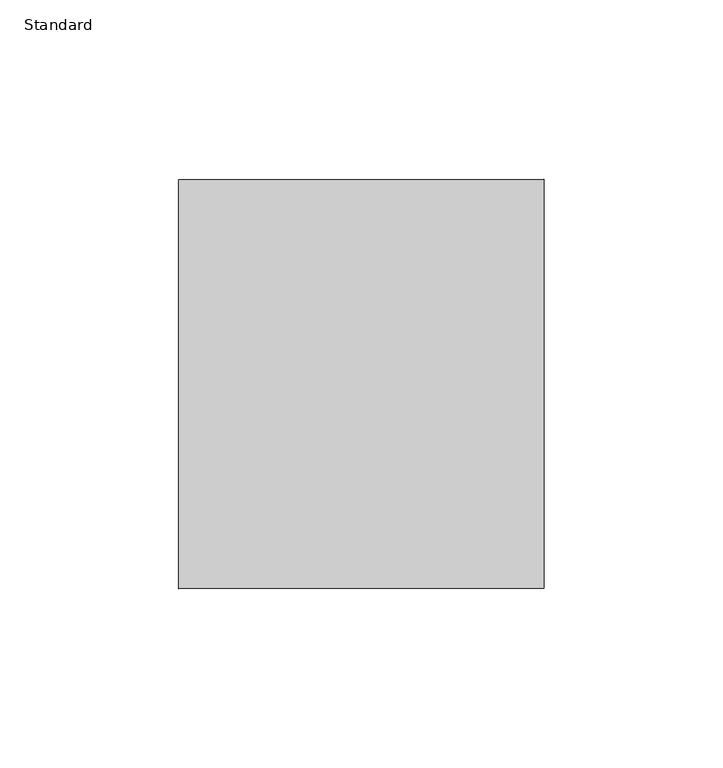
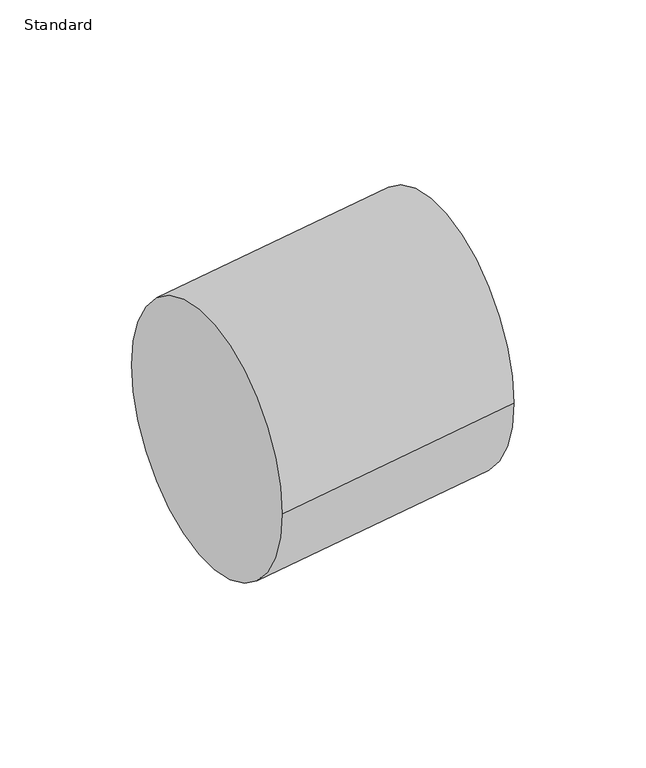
"""IFC4 building model written with IfcOpenShell, lengths in millimetres: pipe fitting geometry, Transformation - Générique : Standard."""

from ifc_helpers import new_model, si_unit, point, frame, origin, place, context, project, spatial, circle_curve, trimmed, source, transform, mapped, element, save
from ifc_brep_helpers import plane_surface, extruded_surface, advanced_brep


def standard_9be00b02(model_context):
    return source(origin(), model_context, "Body", "AdvancedBrep", [
        advanced_brep(
        [(102.0, -56.9217346, 15.5180442), (102.0, 57.3782654, 15.5180442), (0.0, -57.15, 0.0), (0.0, 57.15, 0.0)],
        [
            (0, 1, circle_curve(frame((102.0, 0.2282654, 15.5180442), z_axis=(1.0, 0.0, 0.0), x_axis=(0.0, 1.0, 0.0)), 57.15)),
            (1, 0, circle_curve(frame((102.0, 0.2282654, 15.5180442), z_axis=(1.0, 0.0, 0.0), x_axis=(0.0, 1.0, 0.0)), 57.15)),
            (2, 3, circle_curve(frame((0.0, 0.0, 0.0), z_axis=(-1.0, 0.0, 0.0), x_axis=(0.0, 1.0, 0.0)), 57.15)),
            (3, 2, circle_curve(frame((0.0, 0.0, 0.0), z_axis=(-1.0, 0.0, 0.0), x_axis=(0.0, 1.0, 0.0)), 57.15)),
            (3, 1),
            (0, 2),
        ],
        [
            plane_surface(frame((102.0, 0.2282654, 15.5180442), z_axis=(1.0, 0.0, 0.0), x_axis=(0.0, 0.0, -1.0))),
            plane_surface(frame((0.0, 0.0, 0.0), z_axis=(-1.0, 0.0, 0.0), x_axis=(0.0, 0.0, -1.0))),
            extruded_surface(trimmed(circle_curve(frame((0.0, 0.0, 0.0), z_axis=(1.0, 0.0, 0.0), x_axis=(0.0, 1.0, 0.0)), 57.15), [point((0.0, -57.15, 0.0))], [point((0.0, 57.15, 0.0))], True, "CARTESIAN"), (102.0, 0.2282654, 15.5180442), 103.17393954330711),
            extruded_surface(trimmed(circle_curve(frame((0.0, 0.0, 0.0), z_axis=(1.0, 0.0, 0.0), x_axis=(0.0, 1.0, 0.0)), 57.15), [point((0.0, 57.15, 0.0))], [point((0.0, -57.15, 0.0))], True, "CARTESIAN"), (102.0, 0.2282654, 15.5180442), 103.17393954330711),
        ],
        [
            (0, [[1, 2]]),
            (1, [[3, 4]]),
            (2, [[-4, 5, -1, 6]]),
            (3, [[-3, -6, -2, -5]]),
        ],
    ),
    ])


if __name__ == "__main__":
    model = new_model("IFC4")
    model_context = context("Model", 3, world=origin())
    ifc_project = project(units=[si_unit("LENGTHUNIT", "METRE", prefix="MILLI")], contexts=[model_context])
    site = spatial("IfcSite", under=ifc_project)
    building = spatial("IfcBuilding", under=site)
    placement = place(None, origin())
    standard_shape = standard_9be00b02(model_context)
    element("IfcPipeFitting", 1, ObjectType="Transformation - Générique : Standard", at=placement, inside=building, context=model_context, shape_type="MappedRepresentation", body=[
        mapped(standard_shape, transform((0.0, 0.0, 0.0), x_axis=(1.0, 0.0, 0.0), y_axis=(0.0, 1.0, 0.0), z_axis=(0.0, 0.0, 1.0))),
    ])
    save(model, "model.ifc")
